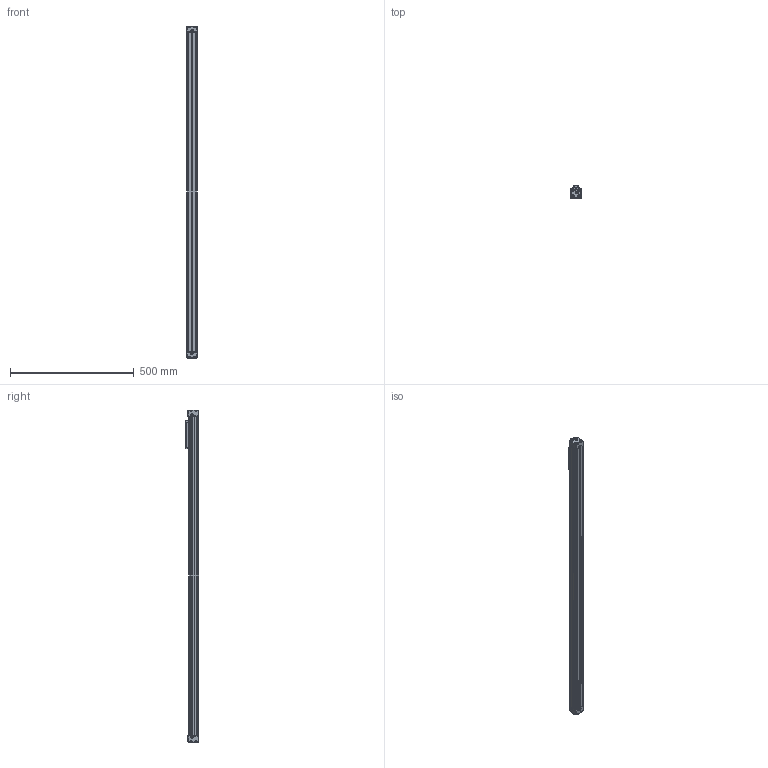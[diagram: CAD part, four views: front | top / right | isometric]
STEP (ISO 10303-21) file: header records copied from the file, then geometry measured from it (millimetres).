
FILE_DESCRIPTION (( 'STEP AP203' ), '1' );
FILE_NAME ('MXP25N_NP_SK45.000_MXP-496346-1.step', '2025-08-29T15:07:39', ( '' ), ( '' ), 'SwSTEP 2.0', 'SolidWorks 2024', '' );
FILE_SCHEMA (( 'CONFIG_CONTROL_DESIGN' ));
Length unit declared in the file: inch
Products named in the file (3): MXP25N_NP_SK45.000_MXP-496346-1; Base_MXP25N_NP_SK45.000_MXP-496346-1; 81259500_MXP25N_NP_SK45.000_MXP-496346-1
Assembly tree (2 placements, depth 2):
  MXP25N_NP_SK45.000_MXP-496346-1
    81259500_MXP25N_NP_SK45.000_MXP-496346-1
    Base_MXP25N_NP_SK45.000_MXP-496346-1
Bounding box: 42 x 52.6 x 1343.3 mm (x, y, z)
Volume: 1504145.2 mm3; surface area: 434298.6 mm2
Topology: 2 solids, 13 shells, 879 faces, 2096 edges, 1292 vertices
Faces by surface type: plane 490, cylinder 227, cone 66, torus 48, bspline 32, sphere 16
Full cylindrical faces by diameter (mm): 3 x4, 3.454 x8, 3.5 x4, 3.797 x8, 4.064 x2, 4.699 x2, 5.5 x6, 6 x4, 6.4 x2, 7.544 x2, 8.433 x6, 10.16 x8, 24.5 x1
Entity records: 25440 total; most frequent: CARTESIAN_POINT 5437, DIRECTION 4161, ORIENTED_EDGE 3886, EDGE_CURVE 1943, AXIS2_PLACEMENT_3D 1448, LINE 1265, VECTOR 1265, VERTEX_POINT 1254
